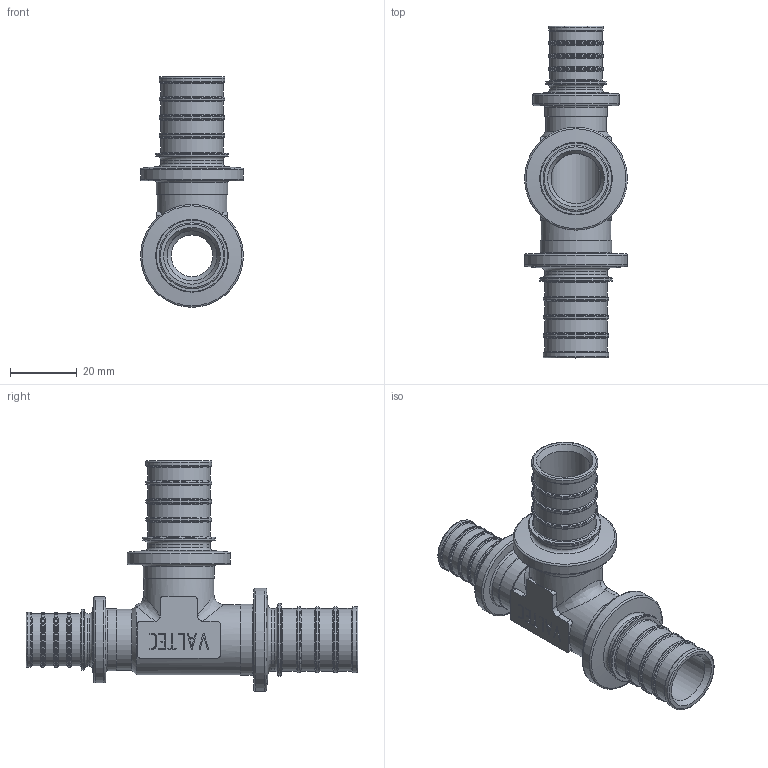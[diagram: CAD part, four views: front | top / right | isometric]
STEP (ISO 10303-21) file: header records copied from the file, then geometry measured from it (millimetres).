
FILE_DESCRIPTION(('STEP AP203'), '1');
FILE_NAME('覆.752241.009 - VTm.431.G.252520 秮鍣. 縺鳱', '', ('UNSPECIFIED'), ('UNSPECIFIED'), 'C3D Converter', 'C3D Toolkit', '');
FILE_SCHEMA(('CONFIG_CONTROL_DESIGN'));
Length unit declared in the file: millimetre
Products named in the file (1): ВР.752241.009
Bounding box: 30.9 x 99.6 x 69.2 mm (x, y, z)
Volume: 23481.4 mm3; surface area: 18634.6 mm2
Topology: 1 solids, 1 shells, 408 faces, 1057 edges, 673 vertices
Faces by surface type: extrusion 142, plane 124, torus 69, cylinder 58, cone 11, bspline 4
Full cylindrical faces by diameter (mm): 12.5 x1, 15 x2, 15.7 x5, 16.5 x4, 18.2 x1, 18.3 x1, 18.7 x1, 18.8 x10, 19.8 x8, 21 x2, 21.4 x2, 21.8 x2, 25.9 x1, 30.9 x2
Entity records: 16166 total; most frequent: CARTESIAN_POINT 3902, ORIENTED_EDGE 1868, DIRECTION 1458, EDGE_CURVE 934, VERTEX_POINT 673, VECTOR 582, EDGE_LOOP 557, B_SPLINE_CURVE_WITH_KNOTS 458
